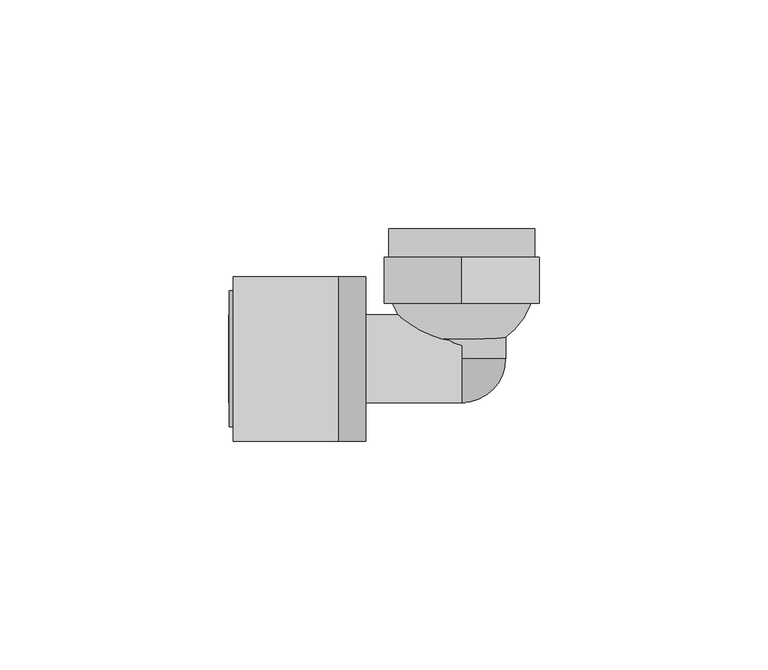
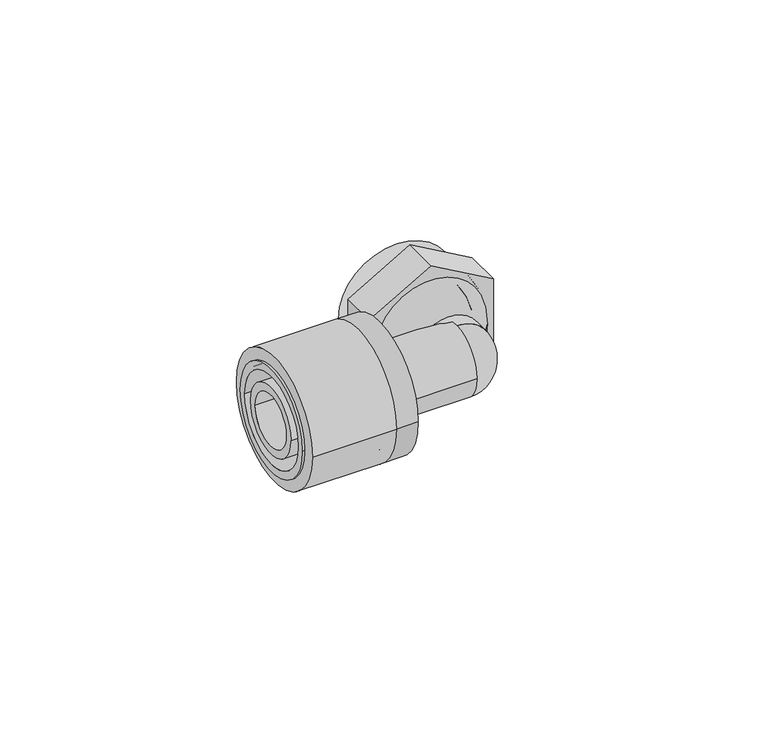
"""IFC4 building model written with IfcOpenShell, lengths in millimetres: pipe fitting geometry, FASTLOC_Elbow with female thread LX : FSL A internal CZ."""

from ifc_helpers import new_model, si_unit, point, frame, origin, origin_2d, place, context, project, spatial, polyline, circle_curve, ellipse_curve, trimmed, segment, composite_curve, outline, extrude, source, transform, mapped, element, save
from ifc_brep_helpers import plane_surface, cylinder_surface, revolved_surface, advanced_brep


def pipe_fitting_ea484583(model_context):
    return source(origin(), model_context, "Body", "SolidModel", [
        extrude(outline(composite_curve([segment(trimmed(circle_curve(origin_2d(), 18.0), [point((18.0, 0.0))], [point((-18.0, 0.0))], False, "CARTESIAN"), True, "CONTINUOUS"), segment(trimmed(circle_curve(origin_2d(), 18.0), [point((-18.0, 0.0))], [point((18.0, 0.0))], False, "CARTESIAN"), True, "CONTINUOUS")], self_intersect=False), holes=[composite_curve([segment(trimmed(circle_curve(origin_2d(), 13.5), [point((13.5, 0.0))], [point((-13.5, 0.0))], True, "CARTESIAN"), True, "CONTINUOUS"), segment(trimmed(circle_curve(origin_2d(), 13.5), [point((-13.5, 0.0))], [point((13.5, 0.0))], True, "CARTESIAN"), True, "CONTINUOUS")], self_intersect=False)]), frame((-50.0, 0.0, 0.0), z_axis=(1.0, 0.0, 0.0), x_axis=(0.0, 1.0, 0.0)), (0.0, 0.0, 1.0), 23.0),
        advanced_brep(
        [(-27.0, -18.0, 0.0), (-27.0, 18.0, 0.0), (-21.0, 18.0, 0.0), (-21.0, -18.0, 0.0), (-50.8, -14.85, 0.0), (-50.8, 14.85, 0.0), (-27.0, 14.85, 0.0), (-27.0, -14.85, 0.0), (-21.0, -12.65, 0.0), (-21.0, 12.65, 0.0), (-50.8, 12.65, 0.0), (-50.8, -12.65, 0.0)],
        [
            (0, 1, circle_curve(frame((-27.0, 0.0, 0.0), z_axis=(1.0, 0.0, 0.0), x_axis=(0.0, 1.0, 0.0)), 18.0)),
            (1, 2),
            (2, 3, circle_curve(frame((-21.0, 0.0, 0.0), z_axis=(-1.0, 0.0, 0.0), x_axis=(0.0, 1.0, 0.0)), 18.0)),
            (3, 0),
            (4, 5, circle_curve(frame((-50.8, 0.0, 0.0), z_axis=(1.0, 0.0, 0.0), x_axis=(0.0, 1.0, 0.0)), 14.85)),
            (5, 6),
            (6, 7, circle_curve(frame((-27.0, 0.0, 0.0), z_axis=(-1.0, 0.0, 0.0), x_axis=(0.0, 1.0, 0.0)), 14.85)),
            (7, 4),
            (8, 9, circle_curve(frame((-21.0, 0.0, 0.0), z_axis=(1.0, 0.0, 0.0), x_axis=(0.0, 1.0, 0.0)), 12.65)),
            (9, 10),
            (10, 11, circle_curve(frame((-50.8, 0.0, 0.0), z_axis=(-1.0, 0.0, 0.0), x_axis=(0.0, 1.0, 0.0)), 12.65)),
            (11, 8),
            (1, 0, circle_curve(frame((-27.0, 0.0, 0.0), z_axis=(1.0, 0.0, 0.0), x_axis=(0.0, -1.0, 0.0)), 18.0)),
            (3, 2, circle_curve(frame((-21.0, 0.0, 0.0), z_axis=(-1.0, 0.0, 0.0), x_axis=(0.0, -1.0, 0.0)), 18.0)),
            (6, 7, circle_curve(frame((-27.0, 0.0, 0.0), z_axis=(1.0, 0.0, 0.0), x_axis=(0.0, -1.0, 0.0)), 14.85)),
            (5, 4, circle_curve(frame((-50.8, 0.0, 0.0), z_axis=(1.0, 0.0, 0.0), x_axis=(0.0, -1.0, 0.0)), 14.85)),
            (10, 11, circle_curve(frame((-50.8, 0.0, 0.0), z_axis=(1.0, 0.0, 0.0), x_axis=(0.0, -1.0, 0.0)), 12.65)),
            (9, 8, circle_curve(frame((-21.0, 0.0, 0.0), z_axis=(1.0, 0.0, 0.0), x_axis=(0.0, -1.0, 0.0)), 12.65)),
        ],
        [
            cylinder_surface(frame((-21.0, 0.0, 0.0), z_axis=(-1.0, 0.0, 0.0), x_axis=(0.0, 1.0, 0.0)), 18.0),
            cylinder_surface(frame((-21.0, 0.0, 0.0), z_axis=(-1.0, 0.0, 0.0), x_axis=(0.0, 1.0, 0.0)), 14.85),
            revolved_surface(polyline([(-50.8, 12.65, 0.0), (-21.0, 12.65, 0.0)]), (-21.0, 0.0, 0.0), (-1.0, 0.0, 0.0)),
            cylinder_surface(frame((-21.0, 0.0, 0.0), z_axis=(-1.0, 0.0, 0.0), x_axis=(0.0, -1.0, 0.0)), 18.0),
            plane_surface(frame((-27.0, 0.0, 0.0), z_axis=(-1.0, 0.0, 0.0), x_axis=(0.0, -1.0, 0.0))),
            cylinder_surface(frame((-21.0, 0.0, 0.0), z_axis=(-1.0, 0.0, 0.0), x_axis=(0.0, -1.0, 0.0)), 14.85),
            plane_surface(frame((-50.8, 0.0, 0.0), z_axis=(-1.0, 0.0, 0.0), x_axis=(0.0, -1.0, 0.0))),
            revolved_surface(polyline([(-50.8, -12.65, 0.0), (-21.0, -12.65, 0.0)]), (-21.0, 0.0, 0.0), (-1.0, 0.0, 0.0)),
            plane_surface(frame((-21.0, 0.0, 0.0), z_axis=(1.0, 0.0, 0.0), x_axis=(0.0, -1.0, 0.0))),
        ],
        [
            (0, [[1, 2, 3, 4]]),
            (1, [[5, 6, 7, 8]]),
            (2, [[9, 10, 11, 12]]),
            (3, [[13, -4, 14, -2]]),
            (4, [[-13, -1], [15, -7]]),
            (5, [[16, -8, -15, -6]]),
            (6, [[-16, -5], [17, -11]]),
            (7, [[18, -12, -17, -10]]),
            (8, [[-14, -3], [-18, -9]]),
        ],
    ),
        advanced_brep(
        [(0.5, 1.5078144, 0.0), (-0.5, 1.5078144, 0.0), (-16.0, 17.5, 0.0), (16.0, 17.5, 0.0), (0.5, 5.010004, 0.0), (-0.5, 5.010004, 0.0), (12.5, 17.5, 0.0), (-12.5, 17.5, 0.0), (12.5, 28.5, 0.0), (-12.5, 28.5, 0.0), (-16.0, 28.5, 0.0), (16.0, 28.5, 0.0)],
        [
            (0, 1, circle_curve(frame((0.0, 1.5078144, 0.0), z_axis=(0.0, 1.0, 0.0), x_axis=(-1.0, 0.0, 0.0)), 0.5)),
            (1, 2, circle_curve(frame((0.0, 17.5, 0.0), z_axis=(0.0, 0.0, -1.0), x_axis=(0.0, 1.0, 0.0)), 16.0)),
            (2, 3, circle_curve(frame((0.0, 17.5, 0.0), z_axis=(0.0, -1.0, 0.0), x_axis=(-1.0, 0.0, 0.0)), 16.0)),
            (3, 0, circle_curve(frame((0.0, 17.5, 0.0), z_axis=(0.0, 0.0, -1.0), x_axis=(0.0, 1.0, 0.0)), 16.0)),
            (4, 5, circle_curve(frame((0.0, 5.010004, 0.0), z_axis=(0.0, 1.0, 0.0), x_axis=(-1.0, 0.0, 0.0)), 0.5)),
            (5, 1),
            (0, 4),
            (6, 7, circle_curve(frame((0.0, 17.5, 0.0), z_axis=(0.0, 1.0, 0.0), x_axis=(-1.0, 0.0, 0.0)), 12.5)),
            (7, 5, circle_curve(frame((0.0, 17.5, 0.0), z_axis=(0.0, 0.0, 1.0), x_axis=(0.0, 1.0, 0.0)), 12.5)),
            (4, 6, circle_curve(frame((0.0, 17.5, 0.0), z_axis=(0.0, 0.0, 1.0), x_axis=(0.0, 1.0, 0.0)), 12.5)),
            (8, 9, circle_curve(frame((0.0, 28.5, 0.0), z_axis=(0.0, 1.0, 0.0), x_axis=(-1.0, 0.0, 0.0)), 12.5)),
            (9, 7),
            (6, 8),
            (2, 10),
            (10, 11, circle_curve(frame((0.0, 28.5, 0.0), z_axis=(0.0, -1.0, 0.0), x_axis=(-1.0, 0.0, 0.0)), 16.0)),
            (11, 3),
            (1, 0, circle_curve(frame((0.0, 1.5078144, 0.0), z_axis=(0.0, 1.0, 0.0), x_axis=(1.0, 0.0, 0.0)), 0.5)),
            (3, 2, circle_curve(frame((0.0, 17.5, 0.0), z_axis=(0.0, -1.0, 0.0), x_axis=(1.0, 0.0, 0.0)), 16.0)),
            (5, 4, circle_curve(frame((0.0, 5.010004, 0.0), z_axis=(0.0, 1.0, 0.0), x_axis=(1.0, 0.0, 0.0)), 0.5)),
            (7, 6, circle_curve(frame((0.0, 17.5, 0.0), z_axis=(0.0, 1.0, 0.0), x_axis=(1.0, 0.0, 0.0)), 12.5)),
            (9, 8, circle_curve(frame((0.0, 28.5, 0.0), z_axis=(0.0, 1.0, 0.0), x_axis=(1.0, 0.0, 0.0)), 12.5)),
            (10, 11, circle_curve(frame((0.0, 28.5, 0.0), z_axis=(0.0, 1.0, 0.0), x_axis=(1.0, 0.0, 0.0)), 16.0)),
        ],
        [
            revolved_surface(trimmed(ellipse_curve(frame((0.0, 17.5, 0.0), z_axis=(0.0, 0.0, 1.0), x_axis=(0.0, 1.0, 0.0)), 16.0, 16.0), [point((-16.0, 17.5, 0.0))], [point((-0.5, 1.5078144, 0.0))], True, "CARTESIAN"), (0.0, 12.2, 0.0), (0.0, -1.0, 0.0)),
            revolved_surface(polyline([(-0.5, 1.5078144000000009, 0.0), (-0.5, 5.010004, 0.0)]), (0.0, 12.2, 0.0), (0.0, -1.0, 0.0)),
            revolved_surface(trimmed(ellipse_curve(frame((0.0, 17.5, 0.0), z_axis=(0.0, 0.0, -1.0), x_axis=(0.0, 1.0, 0.0)), 12.5, 12.5), [point((-0.5, 5.010004, 0.0))], [point((-12.5, 17.5, 0.0))], True, "CARTESIAN"), (0.0, 12.2, 0.0), (0.0, -1.0, 0.0)),
            revolved_surface(polyline([(-12.5, 17.5, 0.0), (-12.5, 28.5, 0.0)]), (0.0, 12.2, 0.0), (0.0, -1.0, 0.0)),
            cylinder_surface(frame((0.0, 12.2, 0.0), z_axis=(0.0, -1.0, 0.0), x_axis=(-1.0, 0.0, 0.0)), 16.0),
            revolved_surface(trimmed(ellipse_curve(frame((0.0, 17.5, 0.0), z_axis=(0.0, 0.0, -1.0), x_axis=(0.0, 1.0, 0.0)), 16.0, 16.0), [point((16.0, 17.5, 0.0))], [point((0.5, 1.5078144, 0.0))], True, "CARTESIAN"), (0.0, 12.2, 0.0), (0.0, -1.0, 0.0)),
            revolved_surface(polyline([(0.5, 1.5078144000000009, 0.0), (0.5, 5.010004, 0.0)]), (0.0, 12.2, 0.0), (0.0, -1.0, 0.0)),
            revolved_surface(trimmed(ellipse_curve(frame((0.0, 17.5, 0.0), z_axis=(0.0, 0.0, 1.0), x_axis=(0.0, 1.0, 0.0)), 12.5, 12.5), [point((0.5, 5.010004, 0.0))], [point((12.5, 17.5, 0.0))], True, "CARTESIAN"), (0.0, 12.2, 0.0), (0.0, -1.0, 0.0)),
            revolved_surface(polyline([(12.5, 17.5, 0.0), (12.5, 28.5, 0.0)]), (0.0, 12.2, 0.0), (0.0, -1.0, 0.0)),
            plane_surface(frame((0.0, 28.5, 0.0), z_axis=(0.0, 1.0, 0.0), x_axis=(1.0, 0.0, 0.0))),
            cylinder_surface(frame((0.0, 12.2, 0.0), z_axis=(0.0, -1.0, 0.0), x_axis=(1.0, 0.0, 0.0)), 16.0),
        ],
        [
            (0, [[1, 2, 3, 4]]),
            (1, [[5, 6, -1, 7]]),
            (2, [[8, 9, -5, 10]]),
            (3, [[11, 12, -8, 13]]),
            (4, [[-3, 14, 15, 16]]),
            (5, [[17, -4, 18, -2]]),
            (6, [[19, -7, -17, -6]]),
            (7, [[20, -10, -19, -9]]),
            (8, [[21, -13, -20, -12]]),
            (9, [[22, -15], [-21, -11]]),
            (10, [[-18, -16, -22, -14]]),
        ],
    ),
        advanced_brep(
        [(-27.0, 9.6, 0.0), (-27.0, -9.6, 0.0), (-51.0, -9.6, 0.0), (-51.0, 9.6, 0.0), (-24.2, 11.1, 0.0), (-24.2, -11.1, 0.0), (-27.0, -11.1, 0.0), (-27.0, 11.1, 0.0), (0.0, 9.6, 0.0), (0.0, -9.6, 0.0), (-24.2, -9.6, 0.0), (-24.2, 9.6, 0.0), (-51.0, 7.35, 0.0), (-51.0, -7.35, 0.0), (0.0, -7.35, 0.0), (0.0, 7.35, 0.0)],
        [
            (0, 1, circle_curve(frame((-27.0, 0.0, 0.0), z_axis=(-1.0, 0.0, 0.0), x_axis=(0.0, -1.0, 0.0)), 9.6)),
            (1, 2),
            (2, 3, circle_curve(frame((-51.0, 0.0, 0.0), z_axis=(1.0, 0.0, 0.0), x_axis=(0.0, -1.0, 0.0)), 9.6)),
            (3, 0),
            (4, 5, circle_curve(frame((-24.2, 0.0, 0.0), z_axis=(-1.0, 0.0, 0.0), x_axis=(0.0, -1.0, 0.0)), 11.1)),
            (5, 6),
            (6, 7, circle_curve(frame((-27.0, 0.0, 0.0), z_axis=(1.0, 0.0, 0.0), x_axis=(0.0, -1.0, 0.0)), 11.1)),
            (7, 4),
            (8, 9, circle_curve(frame((0.0, 0.0, 0.0), z_axis=(-1.0, 0.0, 0.0), x_axis=(0.0, -1.0, 0.0)), 9.6)),
            (9, 10),
            (10, 11, circle_curve(frame((-24.2, 0.0, 0.0), z_axis=(1.0, 0.0, 0.0), x_axis=(0.0, -1.0, 0.0)), 9.6)),
            (11, 8),
            (12, 13, circle_curve(frame((-51.0, 0.0, 0.0), z_axis=(-1.0, 0.0, 0.0), x_axis=(0.0, -1.0, 0.0)), 7.35)),
            (13, 14),
            (14, 15, circle_curve(frame((0.0, 0.0, 0.0), z_axis=(1.0, 0.0, 0.0), x_axis=(0.0, -1.0, 0.0)), 7.35)),
            (15, 12),
            (2, 3, circle_curve(frame((-51.0, 0.0, 0.0), z_axis=(-1.0, 0.0, 0.0), x_axis=(0.0, 1.0, 0.0)), 9.6)),
            (12, 13, circle_curve(frame((-51.0, 0.0, 0.0), z_axis=(1.0, 0.0, 0.0), x_axis=(0.0, 1.0, 0.0)), 7.35)),
            (1, 0, circle_curve(frame((-27.0, 0.0, 0.0), z_axis=(-1.0, 0.0, 0.0), x_axis=(0.0, 1.0, 0.0)), 9.6)),
            (6, 7, circle_curve(frame((-27.0, 0.0, 0.0), z_axis=(-1.0, 0.0, 0.0), x_axis=(0.0, 1.0, 0.0)), 11.1)),
            (5, 4, circle_curve(frame((-24.2, 0.0, 0.0), z_axis=(-1.0, 0.0, 0.0), x_axis=(0.0, 1.0, 0.0)), 11.1)),
            (10, 11, circle_curve(frame((-24.2, 0.0, 0.0), z_axis=(-1.0, 0.0, 0.0), x_axis=(0.0, 1.0, 0.0)), 9.6)),
            (9, 8, circle_curve(frame((0.0, 0.0, 0.0), z_axis=(-1.0, 0.0, 0.0), x_axis=(0.0, 1.0, 0.0)), 9.6)),
            (14, 15, circle_curve(frame((0.0, 0.0, 0.0), z_axis=(-1.0, 0.0, 0.0), x_axis=(0.0, 1.0, 0.0)), 7.35)),
        ],
        [
            cylinder_surface(frame((0.0, 0.0, 0.0), z_axis=(1.0, 0.0, 0.0), x_axis=(0.0, -1.0, 0.0)), 9.6),
            cylinder_surface(frame((0.0, 0.0, 0.0), z_axis=(1.0, 0.0, 0.0), x_axis=(0.0, -1.0, 0.0)), 11.1),
            revolved_surface(polyline([(0.0, -7.35, 0.0), (-51.0, -7.35, 0.0)]), (0.0, 0.0, 0.0), (1.0, 0.0, 0.0)),
            plane_surface(frame((-51.0, 0.0, 0.0), z_axis=(-1.0, 0.0, 0.0), x_axis=(0.0, 1.0, 0.0))),
            cylinder_surface(frame((0.0, 0.0, 0.0), z_axis=(1.0, 0.0, 0.0), x_axis=(0.0, 1.0, 0.0)), 9.6),
            plane_surface(frame((-27.0, 0.0, 0.0), z_axis=(-1.0, 0.0, 0.0), x_axis=(0.0, 1.0, 0.0))),
            cylinder_surface(frame((0.0, 0.0, 0.0), z_axis=(1.0, 0.0, 0.0), x_axis=(0.0, 1.0, 0.0)), 11.1),
            plane_surface(frame((-24.2, 0.0, 0.0), z_axis=(1.0, 0.0, 0.0), x_axis=(0.0, 1.0, 0.0))),
            plane_surface(frame((0.0, 0.0, 0.0), z_axis=(1.0, 0.0, 0.0), x_axis=(0.0, 1.0, 0.0))),
            revolved_surface(polyline([(0.0, 7.35, 0.0), (-51.0, 7.35, 0.0)]), (0.0, 0.0, 0.0), (1.0, 0.0, 0.0)),
        ],
        [
            (0, [[1, 2, 3, 4]]),
            (1, [[5, 6, 7, 8]]),
            (0, [[9, 10, 11, 12]]),
            (2, [[13, 14, 15, 16]]),
            (3, [[17, -3], [18, -13]]),
            (4, [[19, -4, -17, -2]]),
            (5, [[20, -7], [-19, -1]]),
            (6, [[21, -8, -20, -6]]),
            (7, [[-21, -5], [22, -11]]),
            (4, [[23, -12, -22, -10]]),
            (8, [[-23, -9], [24, -15]]),
            (9, [[-18, -16, -24, -14]]),
        ],
    ),
        advanced_brep(
        [(0.0, 0.0, 9.6), (0.0, 0.0, 4.8), (0.0, -4.8, 0.0), (0.0, -9.6, 0.0), (0.0, 0.0, -9.6), (0.0, 0.0, -4.8)],
        [
            (0, 1),
            (1, 2, circle_curve(frame((0.0, 0.0, 0.0), z_axis=(1.0, 0.0, 0.0), x_axis=(0.0, 0.0, 1.0)), 4.8)),
            (2, 3),
            (3, 0, circle_curve(frame((0.0, 0.0, 0.0), z_axis=(-1.0, 0.0, 0.0), x_axis=(0.0, 0.0, 1.0)), 9.6)),
            (4, 3, circle_curve(frame((0.0, 0.0, 0.0), z_axis=(-1.0, 0.0, 0.0), x_axis=(0.0, 0.0, -1.0)), 9.6)),
            (2, 5, circle_curve(frame((0.0, 0.0, 0.0), z_axis=(1.0, 0.0, 0.0), x_axis=(0.0, 0.0, -1.0)), 4.8)),
            (5, 4),
            (5, 1, circle_curve(frame((0.0, 0.0, 0.0), z_axis=(0.0, -1.0, 0.0), x_axis=(0.0, 0.0, 1.0)), 4.8)),
            (0, 4, circle_curve(frame((0.0, 0.0, 0.0), z_axis=(0.0, 1.0, 0.0), x_axis=(0.0, 0.0, 1.0)), 9.6)),
        ],
        [
            plane_surface(frame((0.0, 0.0, 0.0), z_axis=(-1.0, 0.0, 0.0), x_axis=(0.0, 0.0, 1.0))),
            plane_surface(frame((0.0, 0.0, 0.0), z_axis=(-1.0, 0.0, 0.0), x_axis=(0.0, 0.0, -1.0))),
            plane_surface(frame((0.0, 0.0, 0.0), z_axis=(0.0, 1.0, 0.0), x_axis=(0.0, 0.0, 1.0))),
            revolved_surface(trimmed(ellipse_curve(frame((0.0, 0.0, 0.0), z_axis=(1.0, 0.0, 0.0), x_axis=(0.0, 0.0, 1.0)), 4.8, 4.8), [point((0.0, 0.0, 4.8))], [point((0.0, -4.8, 0.0))], True, "CARTESIAN"), (0.0, 0.0, 0.0), (0.0, 1.0, 0.0)),
            revolved_surface(trimmed(ellipse_curve(frame((0.0, 0.0, 0.0), z_axis=(-1.0, 0.0, 0.0), x_axis=(0.0, 0.0, 1.0)), 9.6, 9.6), [point((0.0, -9.6, 0.0))], [point((0.0, 0.0, 9.6))], True, "CARTESIAN"), (0.0, 0.0, 0.0), (0.0, 1.0, 0.0)),
        ],
        [
            (0, [[1, 2, 3, 4]]),
            (1, [[5, -3, 6, 7]]),
            (2, [[8, -1, 9, -7]]),
            (3, [[-2, -8, -6]]),
            (4, [[-9, -4, -5]]),
        ],
    ),
        extrude(outline(polyline([(-9.8149546, 17.0), (9.8149546, 17.0), (19.6299092, 0.0), (9.8149546, -17.0), (-9.8149546, -17.0), (-19.6299092, 0.0), (-9.8149546, 17.0)])), frame((0.0, 12.2, 0.0), z_axis=(0.0, 1.0, 0.0), x_axis=(0.0, 0.0, 1.0)), (0.0, 0.0, 1.0), 10.0),
        extrude(outline(composite_curve([segment(trimmed(circle_curve(origin_2d(), 9.6), [point((0.0, -9.6))], [point((0.0, 9.6))], False, "CARTESIAN"), True, "CONTINUOUS"), segment(trimmed(circle_curve(origin_2d(), 9.6), [point((0.0, 9.6))], [point((0.0, -9.6))], False, "CARTESIAN"), True, "CONTINUOUS")], self_intersect=False), holes=[composite_curve([segment(trimmed(circle_curve(origin_2d(), 7.35), [point((0.0, -7.35))], [point((0.0, 7.35))], True, "CARTESIAN"), True, "CONTINUOUS"), segment(trimmed(circle_curve(origin_2d(), 7.35), [point((0.0, 7.35))], [point((0.0, -7.35))], True, "CARTESIAN"), True, "CONTINUOUS")], self_intersect=False)]), frame((0.0, 0.0, 0.0), z_axis=(0.0, 1.0, 0.0), x_axis=(0.0, 0.0, 1.0)), (0.0, 0.0, 1.0), 12.2),
    ])


if __name__ == "__main__":
    model = new_model("IFC4")
    model_context = context("Model", 3, world=origin())
    ifc_project = project(units=[si_unit("LENGTHUNIT", "METRE", prefix="MILLI")], contexts=[model_context])
    site = spatial("IfcSite", under=ifc_project)
    building = spatial("IfcBuilding", under=site)
    placement = place(None, origin())
    pipe_fitting_shape = pipe_fitting_ea484583(model_context)
    element("IfcPipeFitting", 1, ObjectType="FASTLOC_Elbow with female thread LX : FSL A internal CZ", at=placement, inside=building, context=model_context, shape_type="MappedRepresentation", body=[
        mapped(pipe_fitting_shape, transform((0.0, 0.0, 0.0), x_axis=(1.0, 0.0, 0.0), y_axis=(0.0, 1.0, 0.0), z_axis=(0.0, 0.0, 1.0))),
    ])
    save(model, "model.ifc")
